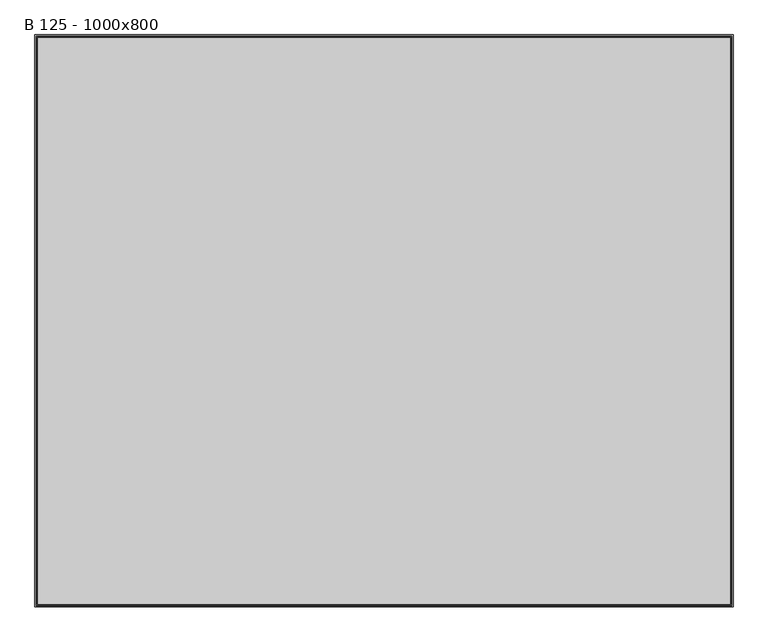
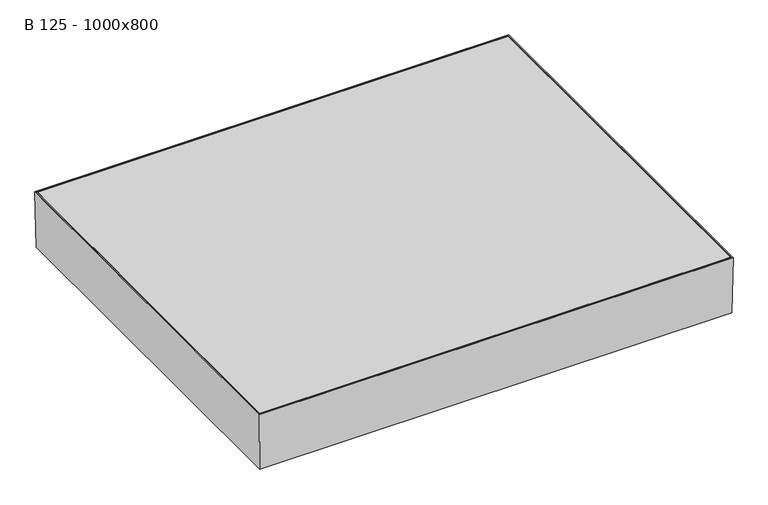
"""IFC4 building model written with IfcOpenShell, lengths in millimetres: proxy geometry, ME_ST_WPB_Access Cover UNIFACE DEEP 65 SS_ACO : B 125 - 1000x800."""

import ifcopenshell
import ifcopenshell.guid

model = None  # the IFC model being written
_history = None  # IfcOwnerHistory: only IFC2X3 demands one
_inside = {}  # id of a spatial element -> (the spatial element, [elements in it])
_under = {}  # id of a project, library or spatial element -> (it, [spatial elements below it])
_declared = {}  # id of a project -> (the project, [libraries it declares])
_typed = {}  # id of a type object -> (the type object, [elements of that type])
_made_of = {}  # id of a material, layer set ... -> (it, [elements and type objects made of it])


def new_model(schema):
    """Start an empty IFC model of exactly this schema.

    Asked for "IFC4X3", IfcOpenShell would pick the latest addendum, in which some entities
    have other attributes; the version numbers below select the first issue.
    IFC2X3 requires an IfcOwnerHistory on every rooted entity: one is made here for all.
    """
    global model, _history
    if schema == "IFC4X3":
        model = ifcopenshell.file(schema_version=(4, 3, 0, 0))
    else:
        model = ifcopenshell.file(schema=schema)
    _inside.clear()
    _under.clear()
    _declared.clear()
    _typed.clear()
    _made_of.clear()
    _history = None
    if model.schema == "IFC2X3":
        org = make("IfcOrganization", Name="unknown")
        user = make(
            "IfcPersonAndOrganization",
            ThePerson=make("IfcPerson", FamilyName="unknown"),
            TheOrganization=org,
        )
        app = make(
            "IfcApplication",
            ApplicationDeveloper=org,
            Version="unknown",
            ApplicationFullName="unknown",
            ApplicationIdentifier="unknown",
        )
        _history = make(
            "IfcOwnerHistory",
            OwningUser=user,
            OwningApplication=app,
            ChangeAction="ADDED",
            CreationDate=0,
        )
    return model


def make(cls, **values):
    """One entity of the class cls with the attributes given. An attribute that is None is left unset."""
    return model.create_entity(
        cls, **{name: value for name, value in values.items() if value is not None}
    )


def rooted(cls, **values):
    """An entity with a GlobalId (a new one), such as an element, a storey or a relation."""
    return make(cls, GlobalId=ifcopenshell.guid.new(), OwnerHistory=_history, **values)


def si_unit(unit_type, name, prefix=None):
    """IfcSIUnit, for example si_unit("LENGTHUNIT", "METRE", prefix="MILLI")."""
    return make("IfcSIUnit", UnitType=unit_type, Prefix=prefix, Name=name)


def assignment(units):
    """IfcUnitAssignment: the units of a project."""
    return None if units is None else make("IfcUnitAssignment", Units=units)


def point(xyz):
    """IfcCartesianPoint."""
    return None if xyz is None else make("IfcCartesianPoint", Coordinates=xyz)


def direction(xyz):
    """IfcDirection."""
    return None if xyz is None else make("IfcDirection", DirectionRatios=xyz)


def frame(location, z_axis=None, x_axis=None):
    """IfcAxis2Placement3D, a coordinate frame: its origin and axes. An axis left out is left unset."""
    return make(
        "IfcAxis2Placement3D",
        Location=point(location),
        Axis=direction(z_axis),
        RefDirection=direction(x_axis),
    )


def origin():
    """The frame at (0, 0, 0) with its axes left unset."""
    return frame((0.0, 0.0, 0.0))


def place(relative_to, where):
    """IfcLocalPlacement: puts the frame where relative to a parent placement (None: the world)."""
    return make(
        "IfcLocalPlacement", PlacementRelTo=relative_to, RelativePlacement=where
    )


def context(
    kind, dimensions, precision=None, world=None, true_north=None, identifier=None
):
    """IfcGeometricRepresentationContext, for example the 3D "Model" context."""
    return make(
        "IfcGeometricRepresentationContext",
        ContextIdentifier=identifier,
        ContextType=kind,
        CoordinateSpaceDimension=dimensions,
        Precision=precision,
        WorldCoordinateSystem=world,
        TrueNorth=true_north,
    )


def project(units=None, contexts=None):
    """IfcProject with its units and contexts."""
    return rooted(
        "IfcProject",
        Name="project",
        RepresentationContexts=contexts,
        UnitsInContext=assignment(units),
    )


def spatial(cls, under=None, at=None, **own):
    """A site, building, storey or space (cls), placed at a placement, below another one or the project."""
    s = rooted(cls, ObjectPlacement=at, **own)
    if under is not None:
        _under.setdefault(under.id(), (under, []))[1].append(s)
    return s


def polyline(points):
    """IfcPolyline through the points."""
    return make("IfcPolyline", Points=[point(p) for p in points])


def outline(outer, holes=None, kind="AREA"):
    """IfcArbitraryClosedProfileDef: a profile drawn as a closed curve; with holes, ...WithVoids."""
    if holes is None:
        return make("IfcArbitraryClosedProfileDef", ProfileType=kind, OuterCurve=outer)
    return make(
        "IfcArbitraryProfileDefWithVoids",
        ProfileType=kind,
        OuterCurve=outer,
        InnerCurves=holes,
    )


def extrude(swept, where, along, depth):
    """IfcExtrudedAreaSolid: the profile swept, set in the frame where, extruded along a direction by depth."""
    return make(
        "IfcExtrudedAreaSolid",
        SweptArea=swept,
        Position=where,
        ExtrudedDirection=direction(along),
        Depth=depth,
    )


def faces_of(points, faces, orient=None, outer=None):
    """IfcFace entities. A face is a list of loops; a loop is a list of indices into points, from 0.

    orient and outer hold one flag for each loop. By default every Orientation is true, the
    first loop of a face is its IfcFaceOuterBound and the others are IfcFaceBound.
    """
    made = []
    for i, loops in enumerate(faces):
        bounds = []
        for j, loop in enumerate(loops):
            is_outer = j == 0 if outer is None else outer[i][j]
            bounds.append(
                make(
                    "IfcFaceOuterBound" if is_outer else "IfcFaceBound",
                    Bound=make("IfcPolyLoop", Polygon=[points[k] for k in loop]),
                    Orientation=True if orient is None else orient[i][j],
                )
            )
        made.append(make("IfcFace", Bounds=bounds))
    return made


def faceted_brep(points, faces, orient=None, outer=None, voids=None):
    """IfcFacetedBrep: a solid bounded by flat faces; with voids (closed shells), ...WithVoids."""
    shared = [point(p) for p in points]
    hull = make("IfcClosedShell", CfsFaces=faces_of(shared, faces, orient, outer))
    if voids is None:
        return make("IfcFacetedBrep", Outer=hull)
    return make(
        "IfcFacetedBrepWithVoids",
        Outer=hull,
        Voids=[
            make(cls, CfsFaces=faces_of(shared, fs, o, b)) for cls, fs, o, b in voids
        ],
    )


def shape(context_of_items, identifier, shape_type, items):
    """IfcShapeRepresentation: the items that make up one representation, for example the "Body"."""
    return make(
        "IfcShapeRepresentation",
        ContextOfItems=context_of_items,
        RepresentationIdentifier=identifier,
        RepresentationType=shape_type,
        Items=items,
    )


def source(mapping_origin, context_of_items, identifier, shape_type, items):
    """IfcRepresentationMap: a shape defined once, which mapped items show again and again."""
    return make(
        "IfcRepresentationMap",
        MappingOrigin=mapping_origin,
        MappedRepresentation=shape(context_of_items, identifier, shape_type, items),
    )


def transform(
    local_origin,
    x_axis=None,
    y_axis=None,
    z_axis=None,
    scale=None,
    scale2=None,
    scale3=None,
    uniform=True,
):
    """IfcCartesianTransformationOperator3D, or its non-uniform kind. x_axis, y_axis, z_axis: its Axis1, 2, 3."""
    if uniform:
        return make(
            "IfcCartesianTransformationOperator3D",
            Axis1=direction(x_axis),
            Axis2=direction(y_axis),
            LocalOrigin=point(local_origin),
            Scale=scale,
            Axis3=direction(z_axis),
        )
    return make(
        "IfcCartesianTransformationOperator3DnonUniform",
        Axis1=direction(x_axis),
        Axis2=direction(y_axis),
        LocalOrigin=point(local_origin),
        Scale=scale,
        Axis3=direction(z_axis),
        Scale2=scale2,
        Scale3=scale3,
    )


def mapped(mapping_source, mapping_target):
    """IfcMappedItem: shows the shape of a source again, moved by a transform."""
    return make(
        "IfcMappedItem", MappingSource=mapping_source, MappingTarget=mapping_target
    )


def made_of(thing, what):
    """Note that an element or type object is made of a material, layer set ...; save() writes the relation."""
    if what is not None:
        _made_of.setdefault(what.id(), (what, []))[1].append(thing)
    return thing


def element(
    cls,
    number,
    at=None,
    inside=None,
    cuts=None,
    type_object=None,
    material=None,
    context=None,
    identifier="Body",
    shape_type=None,
    held_by="IfcProductDefinitionShape",
    body=None,
    shapes=None,
    **own,
):
    """One element of the class cls, such as IfcWall. Its Tag is "e" and its number.

    at: its placement. inside: the storey or other place that contains it. cuts: it is an
    opening in that element (IfcRelVoidsElement). A single representation is given by context,
    identifier, shape_type and body (its items); several are given by shapes. held_by: the class
    of the entity that holds the representations. save() writes the other relations.
    """
    e = rooted(cls, Tag="e%d" % number, ObjectPlacement=at, **own)
    if body is not None:
        shapes = [shape(context, identifier, shape_type, body)]
    if shapes is not None:
        e.Representation = make(held_by, Representations=shapes)
    if inside is not None:
        _inside.setdefault(inside.id(), (inside, []))[1].append(e)
    if cuts is not None:
        rooted(
            "IfcRelVoidsElement", RelatingBuildingElement=cuts, RelatedOpeningElement=e
        )
    if type_object is not None:
        _typed.setdefault(type_object.id(), (type_object, []))[1].append(e)
    return made_of(e, material)


def aggregate(whole, parts):
    """IfcRelAggregates: a whole, such as a stair, and the parts it consists of."""
    return rooted("IfcRelAggregates", RelatingObject=whole, RelatedObjects=parts)


def save(model, path):
    """Write the relations noted so far, then the file.

    IfcRelAggregates (storeys below a building ...), IfcRelContainedInSpatialStructure (elements
    in a storey), IfcRelDefinesByType, IfcRelAssociatesMaterial and IfcRelDeclares: one each for
    every whole, place, type object, material and project.
    """
    for whole, parts in _under.values():
        aggregate(whole, parts)
    for where, things in _inside.values():
        rooted(
            "IfcRelContainedInSpatialStructure",
            RelatedElements=things,
            RelatingStructure=where,
        )
    for kind, things in _typed.values():
        rooted("IfcRelDefinesByType", RelatedObjects=things, RelatingType=kind)
    for what, things in _made_of.values():
        rooted("IfcRelAssociatesMaterial", RelatedObjects=things, RelatingMaterial=what)
    for by, libraries in _declared.values():
        rooted("IfcRelDeclares", RelatingContext=by, RelatedDefinitions=libraries)
    model.write(path)


def b_125_1000x800_1b42dd6a(model_context):
    return source(origin(), model_context, "Body", "SolidModel", [
        extrude(outline(polyline([(551.0, 451.0), (551.0, -451.0), (-551.0, -451.0), (-551.0, 451.0), (551.0, 451.0)])), frame((0.0, 0.0, -5.0), z_axis=(0.0, 0.0, 1.0), x_axis=(1.0, 0.0, 0.0)), (0.0, 0.0, 1.0), 5.0),
        faceted_brep([(548.2666483, 448.2666483, -122.9987834), (-548.2666483, 448.2666483, -122.9987834), (-548.2666483, -448.2666483, -122.9987834), (548.2666483, -448.2666483, -122.9987834), (550.2226777, 450.2226777, -125.0), (550.2226777, -450.2226777, -125.0), (-550.2226777, -450.2226777, -125.0), (-550.2226777, 450.2226777, -125.0), (553.0, 453.0, 0.0), (553.0, -453.0, 0.0), (-553.0, -453.0, 0.0), (-553.0, 453.0, 0.0), (550.9995064, -450.9995064, 0.0), (550.9995064, 450.9995064, 0.0), (-550.9995064, -450.9995064, 0.0), (-550.9995064, 450.9995064, 0.0)], [[[0, 1, 2, 3]], [[4, 5, 6, 7]], [[4, 8, 9, 5]], [[5, 9, 10, 6]], [[6, 10, 11, 7]], [[8, 4, 7, 11]], [[0, 3, 12, 13]], [[3, 2, 14, 12]], [[2, 1, 15, 14]], [[1, 0, 13, 15]], [[9, 8, 11, 10], [13, 12, 14, 15]]]),
        faceted_brep([(552.9309621, 452.9309621, -137.0), (555.0, 455.0, 0.0), (555.0, -455.0, 0.0), (552.9309621, -452.9309621, -137.0), (-555.0, -455.0, 0.0), (-552.9309621, -452.9309621, -137.0), (-555.0, 455.0, 0.0), (-552.9309621, 452.9309621, -137.0), (500.0, 400.0, -137.0), (-500.0, 400.0, -137.0), (-500.0, -400.0, -137.0), (500.0, -400.0, -137.0), (550.960939, 450.960939, -135.0), (-550.960939, 450.960939, -135.0), (-550.960939, -450.960939, -135.0), (550.960939, -450.960939, -135.0), (502.0, -402.0, -135.0), (-502.0, -402.0, -135.0), (-502.0, 402.0, -135.0), (502.0, 402.0, -135.0), (552.9997719, -452.9997719, 0.0), (-552.9997719, -452.9997719, 0.0), (-552.9997719, 452.9997719, 0.0), (552.9997719, 452.9997719, 0.0), (500.0, 400.0, -125.0), (500.0, -400.0, -125.0), (502.0, 402.0, -125.0), (502.0, -402.0, -125.0), (-500.0, -400.0, -125.0), (-502.0, -402.0, -125.0), (-500.0, 400.0, -125.0), (-502.0, 402.0, -125.0)], [[[0, 1, 2, 3]], [[3, 2, 4, 5]], [[5, 4, 6, 7]], [[3, 5, 7, 0], [8, 9, 10, 11]], [[12, 13, 14, 15], [16, 17, 18, 19]], [[1, 6, 4, 2], [20, 21, 22, 23]], [[7, 6, 1, 0]], [[24, 8, 11, 25]], [[19, 26, 27, 16]], [[25, 11, 10, 28]], [[16, 27, 29, 17]], [[28, 10, 9, 30]], [[17, 29, 31, 18]], [[30, 9, 8, 24]], [[26, 31, 29, 27], [25, 28, 30, 24]], [[18, 31, 26, 19]], [[23, 12, 15, 20]], [[20, 15, 14, 21]], [[21, 14, 13, 22]], [[22, 13, 12, 23]]]),
    ])


if __name__ == "__main__":
    model = new_model("IFC4")
    model_context = context("Model", 3, world=origin())
    ifc_project = project(units=[si_unit("LENGTHUNIT", "METRE", prefix="MILLI")], contexts=[model_context])
    site = spatial("IfcSite", under=ifc_project)
    building = spatial("IfcBuilding", under=site)
    placement = place(None, origin())
    b_125_1000x800_shape = b_125_1000x800_1b42dd6a(model_context)
    element("IfcBuildingElementProxy", 1, Name="ME_ST_WPB_Access Cover UNIFACE DEEP 65 SS_ACO : B 125 - 1000x800", ObjectType="ME_ST_WPB_Access Cover UNIFACE DEEP 65 SS_ACO : B 125 - 1000x800", at=placement, inside=building, context=model_context, shape_type="MappedRepresentation", body=[
        mapped(b_125_1000x800_shape, transform((0.0, 0.0, 0.0), x_axis=(1.0, 0.0, 0.0), y_axis=(0.0, 1.0, 0.0), z_axis=(0.0, 0.0, 1.0))),
    ])
    save(model, "model.ifc")
